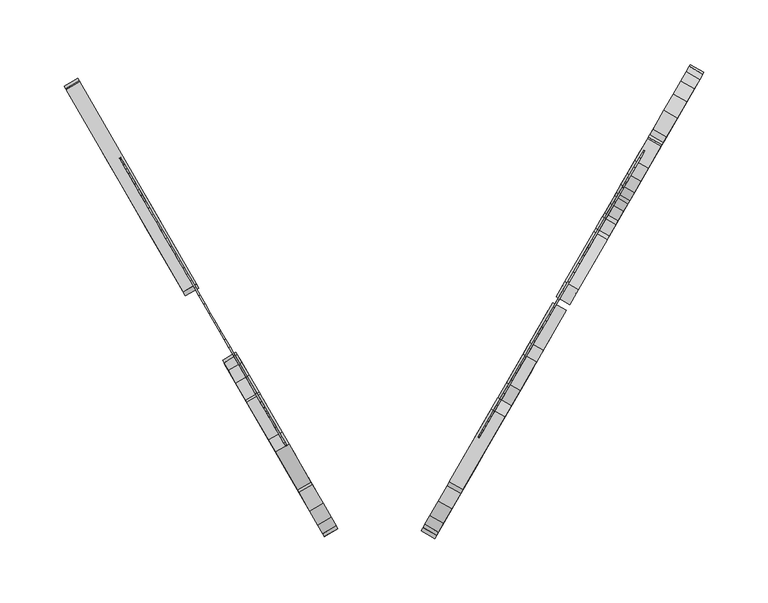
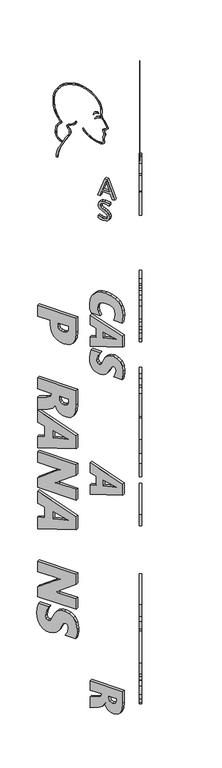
"""IFC4 building model written with IfcOpenShell, lengths in millimetres: proxy geometry, Modelos genéricos - (400)TOTEM - (400)TOTEM."""

from ifc_helpers import new_model, si_unit, point, frame, frame_2d, origin, place, context, project, spatial, polyline, circle_curve, trimmed, segment, composite_curve, outline, extrude, source, transform, mapped, element, save


def generic_models_1c8efe62(model_context):
    return source(origin(), model_context, "Body", "SweptSolid", [
        extrude(outline(polyline([(-80.3774661, -28.5083777), (-100.7879874, 30.7377268), (-51.1912828, 28.6771255), (-24.240557, 23.2900485), (-6.5652179, 8.8162201), (-5.347266, 28.1985705), (0.7980189, 43.925215), (11.6855309, 55.8757368), (27.1301639, 63.9297183), (49.2605002, 66.738668), (68.4571761, 58.9068798), (84.864112, 40.0165924), (98.6252284, 9.6500451), (122.3328338, -59.1665839), (-49.4302314, -118.3396506), (-67.2937987, -66.4866498), (-5.7183602, -45.2736636), (-6.4336007, -43.1975181), (-10.3599736, -36.9594002), (-17.2894131, -32.3223261), (-38.1184081, -28.5083777), (-80.3774661, -28.5083777)]), holes=[polyline([(39.1728398, 6.4459551), (31.6602692, 2.087609), (26.7444757, -4.9166076), (24.9298339, -13.769813), (26.7207182, -23.6751249), (29.9305779, -32.9924611), (68.8203284, -19.5947856), (65.1569015, -8.9608694), (60.551807, 0.3573067), (54.4820544, 5.8286979), (47.25371, 7.7570115), (39.1728398, 6.4459551)])]), frame((-419.5698963, 325.2917013, 2279.6487142), z_axis=(0.8660254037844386, 0.5000000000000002, 0.0), x_axis=(0.4727336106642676, -0.8187986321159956, 0.3257172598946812)), (0.0, 0.0, 1.0), 12.0),
        extrude(outline(polyline([(51.5581652, 55.2175842), (62.329387, 55.2175841), (61.1544311, 31.531573), (56.9792601, 16.0606839), (52.0649763, 5.9553154), (47.5891285, -1.0469498), (42.8315372, -6.1801372), (36.8952275, -10.560278), (29.4359583, -14.7809475), (20.8121161, -18.7715835), (11.4266201, -22.4195913), (1.6257863, -25.669668), (-8.3330692, -28.5565932), (-18.2004353, -31.1230474), (-27.7300259, -33.4131948), (-36.6927136, -35.4790951), (-44.8649169, -37.375793), (-51.9033698, -39.4756851), (-57.1301383, -43.020412), (-60.2491905, -45.9626959), (-61.8683713, -42.4165647), (-62.696972, -35.3212314), (-62.5060865, -26.6188211), (-60.7821867, -16.8979935), (-57.7042164, -7.0358817), (-53.6406035, 2.0343641), (-48.7806385, 9.8595633), (-43.1669027, 16.3796128), (-36.8678539, 21.5529003), (-30.0479601, 25.3598076), (-22.8404071, 27.7837883), (-15.0905931, 28.8009194), (-6.5809258, 28.3928002), (2.4434417, 26.6372716), (11.4390427, 23.6721789), (20.0560556, 19.4958203), (28.2297683, 13.9048631), (35.6972043, 7.3168286), (41.1381098, 3.21759), (44.3662414, 4.3415175), (47.9213022, 9.7933771), (51.6745729, 18.2678375), (54.505076, 29.1226633), (55.5041693, 42.2097192), (51.5581652, 55.2175842)]), holes=[composite_curve([segment(trimmed(circle_curve(frame_2d((-12.5515688, -25.022722)), 43.5117173), [point((-48.4885347, -0.4910276))], [point((-55.2981365, -33.1467906))], True, "CARTESIAN"), True, "CONTINUOUS"), segment(trimmed(circle_curve(frame_2d((-91.5063412, 245.32591)), 280.8168069), [point((-55.2981365, -33.1467906))], [point((36.9439687, -4.3911238))], True, "CARTESIAN"), True, "CONTINUOUS"), segment(trimmed(circle_curve(frame_2d((-13.9898611, -38.3096085)), 61.1941061), [point((36.9439687, -4.3911238))], [point((-12.7293186, 22.8715132))], True, "CARTESIAN"), True, "CONTINUOUS"), segment(trimmed(circle_curve(frame_2d((-13.5092502, -14.9828961)), 37.8624431), [point((-12.7293186, 22.8715132))], [point((-48.4885347, -0.4910276))], True, "CARTESIAN"), True, "CONTINUOUS")], self_intersect=False)]), frame((-44.9569597, 293.556938, 3569.4553785), z_axis=(-0.8660254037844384, 0.5000000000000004, 0.0), x_axis=(-0.42929108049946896, -0.7435539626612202, 0.5126759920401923)), (0.0, 0.0, 1.0), 1.0),
        extrude(outline(polyline([(-60.2017262, 21.1635116), (-73.1143141, 77.7666364), (116.8108071, 62.0389046), (131.5697521, -2.6578404), (-31.9465063, -102.6949867), (-44.8114462, -46.3007295), (-13.2628082, -30.4790073), (-25.0437578, 21.1635116), (-60.2017262, 21.1635116)]), holes=[polyline([(87.6023023, 20.547352), (66.282956, 19.364476), (13.8372759, 20.2549374), (21.460944, -13.1638817), (78.1915106, 15.324193), (87.6023023, 20.547352)])]), frame((-435.2164361, 352.3923032, 2121.3135548), z_axis=(0.8660254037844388, 0.4999999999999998, 0.0), x_axis=(0.4874764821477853, -0.8443340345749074, 0.2224111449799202)), (0.0, 0.0, 1.0), 12.0),
        extrude(outline(polyline([(-60.0947281, 90.3489828), (56.4483146, 90.3489828), (56.4483146, 49.2161442), (-5.2509433, 49.2161442), (-5.2509433, 18.3665153), (49.5928415, 18.3665153), (49.5928415, -22.7663233), (-5.2509433, -22.7663233), (-5.2509433, -50.1882157), (52.2707606, -50.1882157), (52.2707606, -91.3210543), (-60.0947281, -91.3210543), (-60.0947281, 90.3489828)])), frame((-12.677107, 331.4672829, 2192.1601284), z_axis=(-0.8660254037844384, 0.5000000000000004, 0.0), x_axis=(0.0, 0.0, 1.0)), (0.0, 0.0, 1.0), 12.0),
        extrude(outline(polyline([(-18.6471228, -81.8300742), (-39.5655758, -81.8300741), (-50.1016839, -41.1131144), (-31.8190793, -45.3223302), (-15.134686, -43.9850353), (-0.3681791, -37.2828968), (9.5423122, -26.0751451), (13.9458539, -11.3101499), (12.1915116, 6.0637185), (5.2702215, 22.2169714), (-5.7819093, 33.1455562), (-20.0714444, 38.2308868), (-36.7049476, 36.854377), (-53.1327958, 30.251997), (-66.0018342, 20.3332728), (-76.391137, 60.4829009), (-40.7326603, 74.5526105), (-17.6383641, 77.862862), (3.9886617, 75.4619658), (23.3483368, 67.5852388), (39.6405813, 54.4679973), (52.2311722, 36.784262), (60.4858867, 15.2080535), (63.5752198, -5.9528379), (61.5279133, -25.7073303), (54.407926, -43.3578886), (42.2792164, -58.2069781), (25.4456227, -69.809292), (4.2109825, -77.7195239), (-18.6471228, -81.8300742)])), frame((-302.4172833, 122.3774233, 2843.1957147), z_axis=(0.8660254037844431, 0.49999999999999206, 0.0), x_axis=(-0.12525670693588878, 0.2169509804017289, 0.9681131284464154)), (0.0, 0.0, 1.0), 12.0),
        extrude(outline(polyline([(14.1607941, -25.9274697), (-94.0390714, -25.9274697), (-122.069817, 12.6266029), (24.8688506, 119.4583882), (55.5451946, 77.2655043), (-9.4768985, 29.9911795), (-25.0126845, 19.0269724), (-20.4724418, 19.6130274), (-14.9360169, 19.8307632), (-9.3051064, 19.9185416), (-4.5365499, 20.0084143), (97.6857986, 19.3044379), (127.6692478, -21.9354241), (-19.2694198, -128.7672093), (-49.5048307, -87.180794), (12.095047, -42.3945916), (36.5979038, -24.910874), (14.1607941, -25.9274697)])), frame((-416.5560651, 320.0715926, 1915.8486305), z_axis=(0.8660254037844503, 0.4999999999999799, 0.0), x_axis=(0.40441084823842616, -0.7004601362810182, 0.5880539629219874)), (0.0, 0.0, 1.0), 12.0),
        extrude(outline(polyline([(-7.0207868, 7.4311584), (-2.4523088, 7.4311584), (-0.1178888, 3.489727), (1.8008195, 0.1683993), (3.3305661, -2.5706476), (4.4981009, -4.7652374), (5.3301739, -6.4531931), (5.8535348, -7.6723381), (6.0949338, -8.4604956), (6.0811208, -8.8554889), (5.8388455, -8.8951413), (5.394858, -8.617276), (4.7759083, -8.0597164), (4.0087462, -7.2602856), (3.1201218, -6.256807), (2.1367848, -5.0871039), (1.0854852, -3.7889994), (-0.0070269, -2.400317), (-1.1140018, -0.9588797), (-2.2086894, 0.4974889), (-3.2643399, 1.9309658), (-4.2542031, 3.3037275), (-5.1515294, 4.577951), (-5.9295687, 5.7158128), (-6.5615712, 6.6794897), (-7.0207868, 7.4311584)])), frame((-34.8346959, 311.0892133, 3747.7761628), z_axis=(-0.8660254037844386, 0.5000000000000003, 0.0), x_axis=(-0.3528860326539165, -0.6112165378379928, 0.708438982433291)), (0.0, 0.0, 1.0), 1.0),
        extrude(outline(polyline([(-60.2017262, 21.1635115), (-73.1143141, 77.7666363), (116.8108071, 62.0389046), (131.5697521, -2.6578405), (-31.9465063, -102.6949867), (-44.8114462, -46.3007295), (-13.2628082, -30.4790073), (-25.0437578, 21.1635115), (-60.2017262, 21.1635115)]), holes=[polyline([(87.6023023, 20.547352), (66.282956, 19.364476), (13.8372759, 20.2549374), (21.460944, -13.1638817), (78.1915107, 15.3241929), (87.6023023, 20.547352)])]), frame((-435.2164361, 352.3923032, 1720.2683785), z_axis=(0.8660254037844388, 0.4999999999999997, 0.0), x_axis=(0.4874764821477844, -0.844334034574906, 0.22241114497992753)), (0.0, 0.0, 1.0), 12.0),
        extrude(outline(polyline([(-26.053922, -24.3808602), (-38.479467, -24.3808602), (-40.4611272, -19.681112), (-41.9473724, -13.4683395), (-42.8712545, -7.0279439), (-43.1926048, -1.7256639), (-41.893814, 10.5124267), (-37.6627017, 20.7688572), (-30.0574112, 27.8385639), (-18.6360859, 30.4629247), (-9.5981087, 28.494654), (-2.4078957, 23.1789845), (3.4969161, 15.3728501), (8.5983521, 5.9599641), (12.909802, -2.5959877), (16.9802392, -8.8757081), (21.6130394, -12.7720805), (27.6651367, -14.0976505), (33.7440132, -12.3436134), (37.8144504, -7.7777612), (40.0906817, -1.3775344), (40.7869407, 5.7725098), (35.6453359, 27.0351881), (47.5085178, 27.0351881), (51.0701503, 7.3524821), (49.6106844, -4.2696871), (45.1519489, -14.4323904), (37.5466585, -21.635993), (26.7010858, -24.3808602), (17.8237837, -22.6134335), (11.0486482, -17.7396206), (5.5856931, -10.4422908), (0.6984906, -1.4310927), (-3.6665177, 7.1114693), (-7.9913572, 13.9803321), (-12.9856764, 18.5327947), (-19.4126825, 20.179715), (-29.4281002, 15.2657333), (-32.9093951, 0.3631131), (-32.4273697, -5.929997), (-31.0750205, -12.7051326), (-28.9326851, -19.1321385), (-26.053922, -24.3808602)])), frame((-308.53712, 132.9772914, 3306.9970142), z_axis=(0.8660254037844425, 0.4999999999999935, 0.0), x_axis=(0.0, 0.0, 1.0)), (0.0, 0.0, 1.0), 12.0),
        extrude(outline(polyline([(-8.8141895, -9.8029963), (-15.5502766, -9.8029963), (-17.3525215, -9.6855611), (-15.8303386, -8.4663319), (-9.2803753, -5.685902), (-4.6154259, -3.2275173), (-1.4981131, -1.0333324), (0.4089405, 0.9544981), (1.4431124, 2.7938191), (1.9326647, 4.5230778), (2.1509938, 6.063962), (2.3510665, 7.2946832), (2.785815, 8.0933795), (3.6401104, 8.3676936), (4.7718464, 8.1670123), (5.9408453, 7.5832365), (6.9071674, 6.7081748), (7.5001197, 5.6066368), (7.7115236, 4.2800681), (7.5564889, 2.7208341), (7.0501251, 0.9213002), (6.2051569, -1.1240662), (4.9358907, -3.3340695), (3.0253855, -5.5118562), (0.2475789, -7.4525343), (-3.6235919, -8.9512116), (-8.8141895, -9.8029963)])), frame((-319.4277008, 169.8403307, 3776.6638821), z_axis=(0.8660254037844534, 0.49999999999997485, 0.0), x_axis=(0.16053919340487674, -0.27806203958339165, 0.9470526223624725)), (0.0, 0.0, 1.0), 1.0),
        extrude(outline(polyline([(-34.8450844, 33.7096466), (-24.5618747, 33.7096466), (-24.5618747, -2.2815872), (55.9899342, -2.2815872), (55.9899342, -12.5647969), (-34.8450844, -12.5647969), (-34.8450844, 33.7096466)])), frame((-89.7860753, 197.9106321, 3414.5361845), z_axis=(-0.8660254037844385, 0.5000000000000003, 0.0), x_axis=(0.0, 0.0, 1.0)), (0.0, 0.0, 1.0), 12.0),
        extrude(outline(polyline([(42.1894471, -67.4490848), (25.0505081, -67.4490848), (8.2250587, -62.2884927), (-5.3246751, -51.9030551), (-16.157512, -35.0532275), (-24.8322713, -10.4994661), (-31.9640284, 8.7320994), (-40.7654011, 14.2991173), (-50.7676982, 10.3810872), (-56.0597312, -2.8916533), (-55.5510075, -24.2774054), (-48.2987773, -46.9452757), (-95.5181548, -40.4284057), (-97.501731, -22.2858164), (-97.5198067, -8.1180156), (-95.9789174, 8.7271621), (-88.0598482, 37.2151203), (-73.2212335, 58.0574197), (-52.9583549, 69.9195456), (-28.7664942, 71.4669831), (-11.7500839, 66.3678934), (1.948089, 56.2255412), (12.3280245, 41.0399267), (19.3897226, 20.8110499), (24.7422591, 1.4195438), (29.9584747, -6.8155412), (37.3677479, -10.3251529), (47.3947106, -6.8160225), (52.4754214, 6.296652), (51.2626769, 31.9832035), (42.33672, 58.193615), (90.723318, 51.5156539), (94.4334254, 26.6874046), (93.1561294, 0.1956066), (88.5133669, -21.3982982), (81.0726601, -39.172857), (70.7933177, -52.9332225), (57.6346484, -62.484548), (42.1894471, -67.4490848)])), frame((-417.7963956, 322.2199081, 1197.9849921), z_axis=(0.8660254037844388, 0.49999999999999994, 0.0), x_axis=(-0.49530509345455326, 0.8578935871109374, 0.13671670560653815)), (0.0, 0.0, 1.0), 12.0),
        extrude(outline(polyline([(14.160794, -25.9274696), (-94.0390715, -25.9274696), (-122.069817, 12.626603), (24.8688506, 119.4583882), (55.5451946, 77.2655043), (-9.4768986, 29.9911796), (-25.0126845, 19.0269725), (-20.4724418, 19.6130274), (-14.936017, 19.8307633), (-9.3051065, 19.9185417), (-4.5365499, 20.0084144), (97.6857986, 19.3044379), (127.6692477, -21.935424), (-19.2694199, -128.7672092), (-49.5048308, -87.1807939), (12.0950469, -42.3945915), (36.5979037, -24.9108739), (14.160794, -25.9274696)])), frame((-416.5560651, 320.0715926, 1374.2662558), z_axis=(0.866025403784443, 0.49999999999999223, 0.0), x_axis=(0.40441084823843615, -0.7004601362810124, 0.5880539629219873)), (0.0, 0.0, 1.0), 12.0),
        extrude(outline(composite_curve([segment(polyline([(117.6741667, -66.3453681), (138.7352211, -67.796295), (143.0624268, -67.796295), (145.0705339, -54.5408245), (145.2900501, -42.6388145), (143.9862875, -31.9215245), (141.4027786, -22.2180106), (137.752236, -13.3811242), (133.2411854, -5.2687154), (130.4443404, 10.9475575), (133.1035647, 24.1211221), (136.1625235, 35.9161995), (138.1786122, 46.0488012), (138.6867286, 53.8835489), (136.3662847, 59.9940626), (130.5191224, 63.9452562), (122.6840373, 64.0111593), (115.5063981, 65.1521007), (111.9314611, 72.904258), (112.0027888, 82.9198371), (110.8035145, 90.0015287), (106.6583166, 93.6149168), (101.6838688, 101.3720403), (97.933689, 111.1947326), (95.0760383, 119.7187399), (91.6573641, 125.1258058), (85.8643104, 126.2730018), (78.7295581, 124.7127116), (71.7101561, 121.7506913), (64.1631184, 117.0194305), (56.0830114, 110.6308374), (48.1477637, 103.2136689), (40.9577016, 95.3281571), (34.5492768, 87.0552328), (28.7705927, 78.3143589), (23.5855367, 68.3710838), (19.2658205, 54.7547602), (17.1102318, 68.4846985), (25.6837844, 84.0209439), (36.8379633, 98.4661691), (48.793848, 110.8589468), (59.8024475, 120.2579481), (69.1198887, 126.3968235), (77.2231006, 129.8290448), (84.6625904, 131.1574938), (91.6954084, 130.781397), (97.3416206, 128.2415233), (100.7348014, 122.9550865), (102.6914119, 114.7939026), (105.5499715, 106.0749177), (110.4467686, 99.6498325), (113.1541006, 93.8595607), (117.4459714, 93.2598507), (119.191807, 87.9912882), (119.3596649, 78.2449504), (121.3090339, 70.3309142), (127.3404146, 68.8956177), (135.2647192, 68.1640595), (141.7942094, 64.4239077), (144.3180183, 60.9804508), (144.5857486, 55.2026227), (143.3302556, 45.2362082), (139.6096672, 31.4512479), (135.8561647, 14.9801127), (137.8985521, -2.3584697), (142.8775103, -11.3476165), (146.9110178, -21.2346405), (149.728574, -32.1395771), (151.0596781, -44.1824614), (150.6338295, -57.4833291), (148.1805274, -72.1622155), (139.7820183, -90.4585204), (132.959704, -102.634912), (127.1377985, -110.9059382), (121.7625153, -117.2460684), (116.3818606, -122.5188859), (110.5732625, -127.2668884), (103.9570817, -131.9937194), (96.7050228, -136.7044292), (89.3710105, -141.0584164), (82.4994421, -144.718237), (76.248663, -147.5730628), (70.396228, -149.7355921), (64.703679, -151.3281636), (58.9382497, -152.4797642), (52.8747879, -153.3282725), (46.2886724, -154.0121877), (39.038602, -154.6164785), (31.3066618, -155.0183482), (23.3533825, -155.0446009), (15.4392946, -154.5220409), (7.7875627, -153.3048051), (0.4033937, -151.406463), (-6.7868134, -148.89823), (-13.8567667, -145.8514006), (-20.8801748, -142.337269), (-27.9234688, -138.4258172), (-34.924362, -134.163813), (-41.7102473, -129.5781274), (-48.1049465, -124.6949879), (-53.9322817, -119.5406217), (-59.0170958, -114.1411694), (-63.2970869, -108.5131669), (-66.9236325, -102.6549655), (-70.0719098, -96.5628905), (-72.9170958, -90.2332679), (-75.6343678, -83.6624234), (-78.3794789, -76.8434103), (-81.1093703, -69.7357893), (-83.6644687, -62.2794923), (-85.8837248, -54.4142025), (-87.6060889, -46.0796035), (-88.670668, -37.2156478), (-88.9830909, -27.8769476), (-88.6186709, -18.4105893), (-87.6793849, -9.2096175), (-86.2672097, -0.667077), (-84.4862856, 6.8253841), (-82.5483521, 12.9455717), (-80.8202745, 17.4714246), (-79.6942871, 20.2030599), (-80.1510365, 21.5771814), (-83.8848207, 22.8858821), (-90.6413571, 25.0769379), (-98.2590129, 28.7052313), (-105.2330584, 33.9729073), (-111.3666045, 40.4807284), (-116.5979601, 47.7672891), (-120.879845, 55.3958548), (-124.2281682, 63.0378633), (-126.6761529, 70.3943926), (-128.2081907, 77.2791836), (-128.5179259, 84.1767676), (-127.1834394, 91.8231488), (-122.7088078, 101.4946033), (-111.4805645, 115.5320271), (-107.4640677, 111.7865833), (-116.0896516, 101.4801336), (-120.4181495, 94.2618859), (-122.2506933, 88.9091575), (-122.9850899, 84.2112169), (-122.9575033, 79.9567171), (-122.2903626, 75.6492833), (-121.0643422, 70.9245636), (-119.3607834, 65.8430178), (-117.2029535, 60.598445), (-114.5788889, 55.3080869), (-111.4864081, 50.0996476), (-107.9392914, 45.1178382), (-103.9845709, 40.5472155), (-99.6831968, 36.5707907), (-95.1100868, 33.3557996), (-90.2241101, 30.9508941), (-85.2495935, 29.1815533), (-80.9980693, 27.9004019), (-77.3640701, 26.4385514), (-74.1872074, 20.3083404), (-75.1170305, 17.2065794), (-76.1029759, 14.8228979), (-77.3277153, 11.5900254), (-78.6688359, 7.5415403), (-79.9833907, 2.7562032), (-81.1643922, -2.7168161), (-82.1551956, -8.7624813), (-82.9093087, -15.1958962), (-83.3834181, -21.8451609), (-83.5381365, -28.5393005), (-83.3364387, -35.0980095), (-82.7502056, -41.3758193), (-81.7909968, -47.3755369), (-80.5145039, -53.1383229), (-78.9771106, -58.6957837), (-77.234055, -64.0760489), (-75.3424839, -69.3047454), (-73.3601784, -74.4093447), (-71.3473174, -79.4231115), (-69.3662643, -84.2898974), (-67.3956301, -88.9640775), (-65.3681432, -93.4422861), (-63.2207856, -97.7314334), (-60.8895487, -101.841529), (-58.3078547, -105.7888783), (-55.4072636, -109.5910171), (-52.1027055, -113.2848313), (-48.3421976, -116.9124036), (-44.1834141, -120.4577181), (-39.6993252, -123.8969646), (-34.9631276, -127.2079905), (-30.0487039, -130.37334), (-25.0292378, -133.3768702), (-19.9815703, -136.2028217), (-14.9765772, -138.812805), (-10.0090384, -141.1758334), (-5.0498476, -143.2683221), (-0.0693182, -145.0687076), (4.9653023, -146.5562187), (10.0862952, -147.7111328), (15.3419598, -148.5109932), (20.7834062, -148.9581531), (26.3715015, -149.0978534), (31.9829646, -148.9891474), (37.5105949, -148.6988825), (42.8455291, -148.2904049), (47.8646921, -147.816076), (52.4867029, -147.3064499), (56.7679074, -146.7201704), (60.8022914, -146.000022), (64.6997949, -145.0944234), (68.5762437, -143.9527593), (72.5529556, -142.5165924), (76.7518792, -140.724288), (81.2752005, -138.5197674), (86.204242, -135.8551002), (91.4303756, -132.7951487), (96.7081347, -129.4886139), (101.7961728, -126.0852172), (106.4470378, -122.7408416), (110.5776092, -119.4729267), (114.3609135, -116.0778635), (118.0135692, -112.3067469), (121.7376337, -107.9060882), (125.6662453, -102.6272256), (130.0166827, -95.7458658), (135.073228, -86.2884923), (141.0893223, -73.2881613), (138.7352211, -73.2881614), (116.9027686, -71.7828697), (102.6234807, -68.4350182), (93.767022, -64.9978737), (88.3292251, -62.5635254), (84.6976978, -60.2649501), (81.6900216, -57.0772711), (78.9957069, -52.5097948), (76.3122538, -46.6610474), (73.2080144, -39.9984707), (69.4903666, -33.1660785), (65.1435766, -26.9102173), (60.2541163, -21.7718466), (55.1069855, -17.9265032), (49.9121632, -15.5573808), (44.7975407, -15.04571), (40.8928801, -16.7036834), (38.0338932, -20.6440801), (33.5195897, -25.9149368), (27.8106792, -30.4261676), (22.1084889, -32.4601037), (16.5396393, -32.333181), (11.156628, -30.4591767), (6.3053426, -26.9358167), (2.2691393, -21.9814211), (-0.8870034, -16.1222247), (-3.1591986, -9.8603345), (-4.7442831, -3.3604383), (-5.9205482, 3.3624146), (-6.5945953, 10.1852933), (-6.0150487, 16.7767579), (-3.4992025, 22.7686129), (-16.1076237, 30.3123973), (-25.2253059, 33.2339868), (-31.6365563, 33.9083817), (-37.3596751, 33.5224602), (-46.6647294, 34.565163), (-54.7827615, 37.6127574), (-58.2962589, 41.6486431), (-57.5387701, 47.0660009), (-54.0250332, 54.6215878), (-52.9615792, 59.9523849), (-53.768666, 66.1428632), (-55.9624084, 72.0488841), (-59.1669743, 76.839213), (-63.1090245, 80.4074033), (-67.7662934, 83.4363499), (-73.1514491, 86.7179015), (-79.2540581, 90.9052711), (-85.9494121, 95.9629188), (-93.075824, 101.6401523), (-100.4721409, 107.6865616), (-107.977564, 113.8525383), (-115.4579916, 119.974557), (-122.8328351, 126.0590292), (-130.0276629, 132.132091), (-136.9680023, 138.2198455), (-143.5795681, 144.3487557), (-149.8253329, 150.7413988), (-155.7753852, 158.1777479), (-161.5186592, 167.5359035), (-167.1440118, 179.6939059), (-159.2403467, 182.8871939), (-155.1004007, 173.7150352), (-150.8754203, 166.1836247), (-146.611407, 159.959944), (-142.3543624, 154.7109766), (-138.1502783, 150.1036957), (-134.0412793, 145.8268911), (-130.0353579, 141.763585), (-126.1224499, 137.8983967), (-122.2923718, 134.216882), (-118.5349406, 130.7045964), (-114.8399867, 127.3471077), (-111.1917722, 124.125748), (-107.5503835, 121.003476), (-103.8693598, 117.9382788), (-100.1022251, 114.8881302), (-96.2025035, 111.8110035), (-92.1236989, 108.6648568), (-87.8244052, 105.4111022), (-83.3475095, 102.0685015), (-78.8031266, 98.701492), (-74.3034644, 95.3759476), (-69.9607347, 92.1577451), (-65.8872364, 89.1127669), (-62.1631013, 86.2641674), (-58.7924476, 83.5332043), (-55.7681159, 80.8260481), (-53.0828619, 78.0487984), (-50.7317116, 75.1109087), (-48.7291662, 71.9507697), (-47.0993554, 68.5210685), (-45.9245101, 64.7724006), (-45.5804091, 60.6419347), (-46.5344466, 56.060677), (-48.7053687, 51.2222353), (-50.7617157, 46.9012809), (-51.4004303, 43.7554262), (-50.14241, 41.6304949), (-46.7409333, 40.1690788), (-41.5276355, 39.1369493), (-35.4442894, 38.4302515), (-29.4528612, 37.9740558), (-24.4762674, 37.7595323), (-21.1277295, 37.7031044), (-17.7394342, 37.0564265), (-11.7077347, 34.4484229), (-0.9131783, 26.1700258), (3.0765654, 29.6109002), (7.7396402, 31.8772177), (13.6669635, 33.2430713), (21.9654425, 31.9681684)]), True, "CONTINUOUS"), segment(trimmed(circle_curve(frame_2d((19.7640024, 29.9195513)), 3.0071864), [point((21.9654425, 31.9681684))], [point((19.8195993, 26.9128788))], False, "CARTESIAN"), True, "CONTINUOUS"), segment(polyline([(19.8195993, 26.9128788), (13.4927868, 27.6693771), (8.3004911, 26.2159256), (4.6674537, 23.9391828), (1.4477454, 20.3085416), (-0.5500986, 15.9954761), (-1.1144909, 10.9013785), (-0.5811368, 4.8037444), (0.5232404, -1.691945), (1.9579032, -7.7876173), (3.9358068, -13.4398576), (6.6124757, -18.5827855), (9.8503839, -22.7188153), (13.4175545, -25.4398717), (17.2681886, -26.879009), (21.0392195, -27.0646111), (24.7959721, -25.8197614), (29.352158, -22.3088898), (33.413971, -17.6640888), (36.7218536, -13.1149873), (43.8094712, -9.6331917), (51.1216239, -10.1931029), (57.6859273, -13.0660314), (63.670527, -17.4620017), (69.2112372, -23.2086442), (74.0444691, -30.0841704), (78.0219208, -37.3436292), (81.2508979, -44.252072), (83.8620184, -49.9609656), (86.065992, -53.7594715), (88.1336957, -55.9808035), (90.745151, -57.6310474), (95.8403514, -59.9131672), (104.2600705, -63.1919988), (117.6741667, -66.3453681)]), True, "CONTINUOUS")], self_intersect=False)), frame((-89.9439603, 215.6371673, 3722.2166887), z_axis=(-0.8660254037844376, 0.500000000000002, 0.0), x_axis=(0.46359192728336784, 0.8029647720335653, 0.37460659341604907)), (0.0, 0.0, 1.0), 1.0),
        extrude(outline(polyline([(-16.4278046, 3.4490094), (-13.5813785, 9.5474052), (-8.1090277, 9.2513531), (-3.4764574, 7.8366546), (0.3896282, 5.6319631), (3.5625245, 2.9659318), (6.1155276, 0.1672141), (8.121933, -2.4355371), (9.6474741, -4.5545534), (10.7145864, -6.13615), (11.3303227, -7.2098066), (10.5396203, -7.6789269), (9.420197, -7.0166142), (7.8872165, -5.9978875), (5.9851679, -4.7037075), (3.7830788, -3.2486972), (1.3504903, -1.7481846), (-1.2430562, -0.3174972), (-3.9281105, 0.9300848), (-6.637557, 1.9339874), (-9.3067626, 2.6896649), (-11.8712144, 3.1952834), (-14.2663995, 3.4490094), (-16.4278046, 3.4490094)])), frame((-318.0102439, 167.3852234, 3753.6849231), z_axis=(0.86602540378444, 0.4999999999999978, 0.0), x_axis=(-0.4990103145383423, 0.8643112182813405, -0.06288739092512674)), (0.0, 0.0, 1.0), 1.0),
        extrude(outline(polyline([(46.9942844, 74.3329074), (93.1544699, 74.3329074), (93.1544699, -78.5727072), (25.5370106, -78.5727072), (5.9730257, 5.0024724), (1.6455084, 28.1727218), (0.0903068, 15.9339617), (-1.8705995, 5.4081772), (-22.7869336, -78.5727072), (-91.4862722, -78.5727072), (-91.4862722, 74.3329074), (-51.0961099, 74.3329074), (-51.0961099, 1.396208), (-51.3215014, -43.952568), (-46.407966, -17.6268372), (-23.1926384, 74.3329074), (19.4514393, 74.3329074), (41.6299659, -18.7087166), (48.0310854, -43.952568), (47.7155373, -36.8301957), (46.9942844, -10.5044648), (46.9942844, 74.3329074)])), frame((-134.6560537, 120.1935498, 2085.3853251), z_axis=(-0.8660254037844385, 0.5000000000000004, 0.0), x_axis=(0.0, 0.0, 1.0)), (0.0, 0.0, 1.0), 12.0),
        extrude(outline(polyline([(-50.6697863, 17.8126222), (-61.5378811, 65.4535856), (98.3157626, 52.2160781), (110.7378747, -2.2370157), (-26.8883095, -86.4349471), (-37.7163006, -38.9697806), (-11.1628636, -25.6531645), (-21.0784962, 17.8126222), (-50.6697863, 17.8126222)]), holes=[polyline([(73.7319378, 17.2940214), (55.7881547, 16.298434), (11.6463738, 17.0479056), (18.0629612, -11.0796004), (65.8111881, 12.8978624), (73.7319378, 17.2940214)])]), frame((-316.4034107, 146.6021066, 1961.7694902), z_axis=(0.8660254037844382, 0.5000000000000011, 0.0), x_axis=(0.4874764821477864, -0.8443340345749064, 0.22241114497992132)), (0.0, 0.0, 1.0), 12.0),
        extrude(outline(polyline([(-8.5175914, 48.7575175), (-3.4171395, 48.7575175), (2.8849881, 47.7131735), (9.1783634, 46.0622097), (14.1889366, 44.2982382), (24.9609589, 38.3466623), (32.7677207, 30.4630624), (36.3271581, 20.7084942), (34.3078565, 9.1648222), (28.9827252, 1.6016153), (21.2910799, -2.9584393), (11.804039, -5.3664656), (1.1486094, -6.409966), (-8.4102782, -7.0584849), (-15.778121, -8.3693016), (-21.1683502, -11.1242944), (-24.7411797, -16.1859054), (-25.4867481, -22.4687005), (-22.8610725, -27.9933084), (-17.8480388, -32.5773706), (-11.5302342, -35.9969106), (10.0596461, -39.5203544), (5.4504868, -50.4515362), (-14.0696866, -46.0861075), (-24.2117493, -40.2257813), (-31.8437098, -32.1688564), (-35.526524, -22.3622661), (-33.8419565, -11.3022943), (-28.764317, -3.8091063), (-21.6410836, 0.5401533), (-12.7945474, 2.7387203), (-2.5924835, 3.7408841), (6.9748753, 4.443956), (14.984418, 5.7602913), (21.119653, 8.5934928), (25.1342487, 13.8757058), (24.4975754, 25.0134999), (12.1183158, 34.0113572), (6.132328, 36.0122402), (-0.6359599, 37.3984538), (-7.3903988, 37.9214869), (-13.3452436, 37.3081532), (-8.5175914, 48.7575175)])), frame((-11.5469347, 333.4247989, 3309.3080702), z_axis=(-0.8660254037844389, 0.4999999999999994, 0.0), x_axis=(0.4607187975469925, 0.7979883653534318, -0.3885263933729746)), (0.0, 0.0, 1.0), 12.0),
        extrude(outline(polyline([(5.1769619, 89.7221858), (32.2852107, 89.7221859), (52.8415157, 79.6828438), (67.3534986, 58.9958968), (76.3287812, 27.0530815), (88.3847214, -45.9218902), (-90.8557594, -75.5335842), (-99.7951387, -21.4232503), (-42.3029091, -11.9251598), (-44.9917067, 4.350214), (-46.541588, 25.8893313), (-43.7184695, 45.2738258), (-36.7741613, 61.8921113), (-25.960474, 75.1326014), (-11.8019264, 84.5557936), (5.1769619, 89.7221858)]), holes=[polyline([(12.8255781, 31.924411), (2.7675818, 28.8344075), (-3.8916624, 23.4491859), (-7.1521544, 15.7687462), (-7.0138944, 5.7930884), (-5.1020545, -5.7793365), (42.2444876, 2.0426204), (40.629463, 11.8184131), (37.4047708, 21.9729049), (31.6416726, 28.7631095), (23.4214985, 32.1074653), (12.8255781, 31.924411)])]), frame((-18.4788461, 321.418376, 1064.054287), z_axis=(-0.8660254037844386, 0.5000000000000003, 0.0), x_axis=(-0.4933132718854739, -0.8544436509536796, -0.16299712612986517)), (0.0, 0.0, 1.0), 12.0),
        extrude(outline(polyline([(-28.0009924, -28.7072936), (-39.4892656, -28.7072936), (-5.3725753, 62.127725), (5.3658806, 62.127725), (39.348675, -28.7072936), (27.8068433, -28.7072936), (19.5052939, -4.7131378), (-19.1638591, -4.7131378), (-28.0009924, -28.7072936)]), holes=[polyline([(-1.3021381, 45.6853012), (-15.4951098, 5.5700719), (15.8633238, 5.5700719), (1.7239105, 45.6853012), (0.0636007, 51.8445153), (-1.3021381, 45.6853012)])]), frame((-301.9101467, 121.499037, 3409.2255713), z_axis=(0.8660254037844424, 0.4999999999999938, 0.0), x_axis=(-0.4999999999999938, 0.8660254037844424, 0.0)), (0.0, 0.0, 1.0), 12.0),
        extrude(outline(polyline([(28.618245, 66.0064697), (77.4831289, 66.0064697), (29.0239497, -86.8991448), (-26.8280716, -86.8991448), (-78.3074973, 66.0064697), (-29.6229266, 66.0064697), (-22.5456325, 37.1563538), (22.0368123, 37.1563538), (28.618245, 66.0064697)]), holes=[polyline([(0.4443036, -55.1640172), (3.4645501, -37.4482429), (14.0128738, 5.4212263), (-14.8372422, 5.4212263), (-2.0800815, -46.4639042), (0.4443036, -55.1640172)])]), frame((-130.4928349, 127.4044563, 1330.7585701), z_axis=(-0.8660254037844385, 0.5000000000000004, 0.0), x_axis=(0.0, 0.0, 1.0)), (0.0, 0.0, 1.0), 12.0),
        extrude(outline(polyline([(28.618245, 66.0064697), (77.4831289, 66.0064697), (29.0239498, -86.8991448), (-26.8280716, -86.8991448), (-78.3074973, 66.0064697), (-29.6229266, 66.0064697), (-22.5456325, 37.1563538), (22.0368123, 37.1563538), (28.618245, 66.0064697)]), holes=[polyline([(0.4443036, -55.1640172), (3.4645501, -37.4482429), (14.0128738, 5.4212263), (-14.8372422, 5.4212263), (-2.0800815, -46.4639042), (0.4443036, -55.1640172)])]), frame((-130.4928349, 127.4044563, 1777.9353674), z_axis=(-0.8660254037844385, 0.5000000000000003, 0.0), x_axis=(0.0, 0.0, 1.0)), (0.0, 0.0, 1.0), 12.0),
        extrude(outline(polyline([(-51.6514887, 22.8310198), (45.3791723, 22.8310198), (49.1548919, 12.7782403), (-23.9314919, -50.9729276), (-27.9896844, -40.1680699), (-8.4464989, -23.9600736), (-22.042856, 12.2399604), (-47.6121278, 12.0763006), (-51.6514887, 22.8310198)]), holes=[polyline([(-11.1262951, 12.4211214), (-0.1004404, -16.9350004), (32.4818133, 10.4063852), (37.6639696, 14.1263051), (31.4178325, 13.2392135), (-11.1262951, 12.4211214)])]), frame((-135.5450816, 118.6537084, 3305.0169627), z_axis=(-0.8660254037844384, 0.5000000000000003, 0.0), x_axis=(-0.17580365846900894, -0.30450086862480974, 0.9361475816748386)), (0.0, 0.0, 1.0), 12.0),
        extrude(outline(polyline([(-13.1004726, -185.1836419), (-31.076087, -185.1836419), (-30.660069, -179.7075553), (-17.1949464, -180.0041317), (-8.8477396, -178.868191), (-3.5208963, -176.9466197), (0.6082643, -174.5765122), (3.9154443, -171.885105), (6.8679159, -168.6555455), (9.7999557, -164.7247808), (12.7099625, -160.1980648), (15.4602882, -155.2139841), (17.95131, -149.8369453), (20.0811492, -144.1458402), (21.7442322, -138.2440448), (22.8249336, -132.2856203), (23.2180566, -126.433719), (22.8399305, -120.8515746), (21.6307259, -115.5290703), (19.8903749, -110.553328), (18.2446162, -106.4603801), (17.1587256, -102.6329299), (20.2483972, -96.4196108), (23.1273927, -95.3315541), (25.6416297, -94.5981859), (28.9878876, -93.508599), (33.0376816, -91.9946089), (37.6404081, -89.992706), (42.6926105, -87.4531201), (48.0636978, -84.4094749), (53.5784362, -80.9419667), (59.074695, -77.12477), (64.3933202, -73.0347457), (69.3686397, -68.7565554), (73.877331, -64.3553853), (77.9380518, -59.8370731), (81.6194086, -55.2204652), (84.9809251, -50.5302438), (88.0794665, -45.792394), (90.9711742, -41.0359281), (93.7146768, -36.2888011), (96.3716276, -31.5801496), (98.9292472, -26.9957043), (101.3361924, -22.5361856), (103.5496206, -18.1492988), (105.5356409, -13.7807375), (107.2620105, -9.3734547), (108.7000985, -4.8639928), (109.8202303, -0.1867033), (110.5998402, 4.7516689), (111.0435938, 10.0054357), (111.1760814, 15.5108478), (111.0245976, 21.1955749), (110.6183269, 26.9883209), (109.9902476, 32.8201856), (109.174203, 38.6234377), (108.2049703, 44.3264839), (107.0915752, 49.8527906), (105.8020063, 55.1957381), (104.3000592, 60.3634837), (102.5497622, 65.3663647), (100.5141709, 70.2172633), (98.1569698, 74.9298354), (95.4283762, 79.5301156), (92.3092906, 84.0600884), (88.8747096, 88.5043759), (85.2515728, 92.8022309), (81.5588892, 96.9133786), (77.9147413, 100.7891096), (74.4363469, 104.3654458), (71.1777943, 107.6057761), (68.0543171, 110.5367349), (64.9608727, 113.1985529), (61.7868881, 115.6475453), (58.4184604, 117.9429673), (54.7316251, 120.1432777), (50.6026787, 122.3045366), (45.9276589, 124.4687814), (40.6359334, 126.6629076), (34.8977088, 128.8235014), (28.9900108, 130.8493947), (23.1818618, 132.6458064), (17.7379759, 134.1190251), (12.6455103, 135.2286381), (7.6001273, 135.9899789), (2.2669785, 136.4132541), (-3.6714224, 136.4960397), (-10.5290138, 136.1447164), (-19.1236664, 135.0323463), (-30.3925943, 132.7653801), (-45.1870753, 128.9504444), (-57.3352802, 122.1720094), (-67.1863858, 114.7988634), (-75.0490781, 106.9471553), (-81.2300936, 98.7072856), (-85.9960356, 90.159057), (-89.6033858, 81.3798768), (-100.5198994, 69.0664864), (-112.4683824, 62.9144113), (-123.5900737, 57.9355495), (-132.7620972, 53.1807399), (-139.1977565, 48.683658), (-142.5201108, 43.0547328), (-141.9532993, 36.0205333), (-137.1106758, 29.8608337), (-133.5182311, 23.543034), (-137.3389658, 15.9090244), (-145.204834, 9.7086187), (-149.9859202, 4.3485973), (-150.2184224, -1.1455072), (-153.1688483, -9.8755175), (-158.4970312, -18.9397108), (-163.3685589, -26.4957074), (-165.4555846, -32.5428571), (-162.7328882, -37.7833202), (-157.0578005, -42.3803382), (-150.360133, -46.0117042), (-141.9512583, -48.9499747), (-131.9151732, -51.269295), (-121.1663429, -52.8330058), (-110.5172473, -53.5222452), (-100.0538554, -53.3591001), (-89.6183944, -52.4118823), (-78.6147631, -50.2500266), (-65.2833172, -45.1180903), (-74.658768, -55.3776562), (-92.146615, -58.3869637), (-110.3944242, -58.69953), (-127.5402222, -57.1039965), (-141.7564261, -54.3781868), (-152.3703883, -50.9366309), (-160.112231, -46.7526069), (-165.7966211, -41.7727983), (-169.8958835, -36.0458422), (-171.4392946, -30.0501309), (-169.4305458, -24.0982389), (-164.2795286, -17.4725111), (-159.2563077, -9.7940143), (-157.2975867, -1.9566836), (-154.4669788, 3.7743332), (-156.67952, 7.5005201), (-153.6557359, 12.1548108), (-146.1495265, 18.373822), (-141.1869875, 24.8395171), (-143.8335698, 30.4460517), (-148.2121033, 37.0912173), (-149.3699278, 44.5264322), (-148.2573471, 48.6482244), (-143.9125899, 52.466347), (-135.3454411, 57.7113106), (-122.2565422, 63.4164516), (-107.04941, 70.773775), (-94.7852059, 83.1990348), (-90.8754921, 92.7021355), (-85.6740486, 102.0277676), (-78.9181734, 111.0396715), (-70.3451641, 119.601588), (-59.6923183, 127.5772577), (-46.6969338, 134.830421), (-27.1630542, 139.7004594), (-13.392856, 141.9786443), (-3.2973084, 142.5986254), (5.0113968, 142.3612703), (12.4899771, 141.453037), (19.8260309, 139.8827972), (27.6499981, 137.6686796), (35.8585694, 134.9479254), (43.8397619, 131.9403503), (50.9900096, 128.860302), (57.1238565, 125.7622072), (62.4682581, 122.5427511), (67.2677007, 119.0921351), (71.768306, 115.3091589), (76.2183846, 111.1041218), (80.8663991, 106.3881256), (85.8669647, 101.103901), (91.0104507, 95.3169371), (95.9988686, 89.1225019), (100.5342301, 82.6158627), (104.3632315, 75.8801807), (107.4932171, 68.927998), (110.025774, 61.7463223), (112.0626179, 54.322127), (113.7054647, 46.6423851), (115.0504597, 38.6989329), (116.0952182, 30.5696237), (116.752907, 22.406034), (116.9339601, 14.3621265), (116.5488114, 6.5918634), (115.5084648, -0.7516438), (113.7869172, -7.6094138), (111.4774373, -14.1006896), (108.6865779, -20.3645645), (105.5208918, -26.5401323), (102.086932, -32.7664864), (98.476563, -39.1695957), (94.631309, -45.7410952), (90.4045865, -52.3938925), (85.6486958, -59.0398975), (80.2159373, -65.5910205), (73.9589188, -71.9591256), (66.8613405, -78.0364039), (59.2412906, -83.6648655), (51.469402, -88.6786353), (43.9163079, -92.9118382), (36.9529021, -96.2011607), (30.9630508, -98.5106985), (26.3493231, -99.9882346), (23.5128146, -100.8152164), (22.7250455, -102.0302266), (24.0353235, -105.7634575), (26.5446818, -112.4083528), (28.4695673, -120.6234611), (28.7122116, -129.3599848), (27.4614009, -138.2147911), (25.0389186, -146.8514936), (21.7562846, -154.9603693), (17.8800152, -162.3486099), (13.6642956, -168.8554417), (9.2448285, -174.3523315), (4.0518752, -178.9026982), (-2.7528675, -182.6367945), (-13.1004726, -185.1836419)])), frame((-368.3510367, 254.5780342, 3750.8148434), z_axis=(0.8660254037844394, 0.499999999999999, 0.0), x_axis=(-0.4358448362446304, 0.7549054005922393, 0.490058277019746)), (0.0, 0.0, 1.0), 1.0),
        extrude(outline(polyline([(-45.5581275, 36.0035539), (45.2768911, 36.0035539), (45.2768911, 25.7203442), (-18.6985981, 25.7203442), (-32.0614148, 26.095253), (-25.9825383, 22.4532828), (45.2768911, -22.5357594), (45.2768911, -35.9789136), (-45.5581275, -35.9789136), (-45.5581275, -25.695704), (20.0776716, -25.695704), (32.556775, -25.8028208), (26.8528071, -22.9106681), (-45.5581275, 23.3369962), (-45.5581275, 36.0035539)])), frame((-52.3709928, 262.715456, 3310.2492276), z_axis=(-0.8660254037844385, 0.5000000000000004, 0.0), x_axis=(0.0, 0.0, 1.0)), (0.0, 0.0, 1.0), 12.0),
        extrude(outline(polyline([(19.6032217, 72.7518474), (72.34484, 72.7518474), (57.1083725, 33.8492692), (45.4330912, 13.8795795), (29.069666, 3.782039), (44.159629, -2.50075), (54.9896921, -11.7023592), (61.5147769, -23.6424756), (63.6898052, -38.1407858), (59.8581492, -56.5214652), (48.3631811, -69.6505218), (28.8330049, -77.5279558), (0.8957247, -80.1537672), (-60.3656934, -80.1537672), (-60.3656934, 72.7518474), (-14.2055079, 72.7518474), (-14.2055079, 17.9366271), (-12.3572973, 17.9366271), (-0.7270944, 23.5939545), (8.018097, 39.123431), (19.6032217, 72.7518474)]), holes=[polyline([(14.6446081, -31.9650578), (9.0098198, -18.9599666), (-5.9110996, -13.7985004), (-14.2055079, -13.7985004), (-14.2055079, -48.4186396), (-4.7390636, -48.4186396), (9.9564642, -43.9784264), (14.6446081, -31.9650578)])]), frame((-133.8655237, 121.5627879, 2838.9879003), z_axis=(-0.8660254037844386, 0.5000000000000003, 0.0), x_axis=(0.0, 0.0, 1.0)), (0.0, 0.0, 1.0), 12.0),
        extrude(outline(polyline([(-71.9316521, 54.6223937), (-29.8735924, 54.6223937), (-38.5286272, 37.9772291), (-41.4136387, 21.4898386), (-38.6244186, 5.5152139), (-30.256758, -6.8869551), (-17.0657187, -14.8489109), (0.1936378, -17.5028962), (17.56569, -14.8489109), (30.9145035, -6.8869551), (39.417399, 5.672988), (42.2516975, 22.1209349), (39.975243, 39.6789352), (33.5966627, 54.6223937), (75.0687044, 54.6223937), (79.7568482, 16.5763033), (77.1761152, -6.6108505), (69.4339161, -26.9468013), (56.9584948, -43.7159312), (40.1780954, -56.2026221), (19.9041272, -63.9617255), (-3.0520002, -66.5480933), (-24.3120563, -64.2378301), (-42.923762, -57.3070406), (-58.227847, -45.9923857), (-69.565041, -30.5305267), (-76.5803524, -11.3271683), (-78.9187896, 11.2119848), (-77.1720051, 34.3709646), (-71.9316521, 54.6223937)])), frame((-135.506489, 118.7205527, 900.6724848), z_axis=(-0.8660254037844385, 0.5000000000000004, 0.0), x_axis=(-0.5000000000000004, -0.8660254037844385, 0.0)), (0.0, 0.0, 1.0), 12.0),
        extrude(outline(polyline([(28.618245, 66.0064697), (77.4831289, 66.0064697), (29.0239498, -86.8991448), (-26.8280716, -86.8991448), (-78.3074972, 66.0064697), (-29.6229266, 66.0064697), (-22.5456325, 37.1563538), (22.0368123, 37.1563538), (28.618245, 66.0064697)]), holes=[polyline([(0.4443037, -55.1640172), (3.4645502, -37.4482429), (14.0128738, 5.4212263), (-14.8372421, 5.4212263), (-2.0800815, -46.4639042), (0.4443037, -55.1640172)])]), frame((-130.4928349, 127.4044563, 1045.1424221), z_axis=(-0.8660254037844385, 0.5000000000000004, 0.0), x_axis=(0.0, 0.0, 1.0)), (0.0, 0.0, 1.0), 12.0),
        extrude(outline(polyline([(43.0461795, 34.0823016), (45.7508779, 34.0823016), (45.7508779, -31.0446929), (35.4676682, -31.0446929), (35.4676682, 17.8808905), (-41.8974169, -34.4724294), (-45.0841407, -34.4724294), (-45.0841407, 32.3684333), (-34.800931, 32.3684333), (-34.800931, -18.6994854), (43.0461795, 34.0823016)])), frame((-137.9607145, 114.4697094, 3424.7752408), z_axis=(-0.8660254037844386, 0.5000000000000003, 0.0), x_axis=(0.0, 0.0, 1.0)), (0.0, 0.0, 1.0), 12.0),
        extrude(outline(polyline([(-11.5407856, -50.9030213), (-29.2882997, -50.9030213), (-55.2225193, -43.0116713), (-71.9660489, -27.4230768), (-79.8274572, -3.4075467), (-79.1153129, 29.7646102), (-69.4057355, 103.0886601), (110.6921481, 79.2400819), (103.4925773, 24.8709096), (45.7253316, 32.5204535), (43.5598357, 16.1672258), (38.7724461, -4.8902338), (30.4286682, -22.6133824), (18.9474426, -36.4904242), (4.74771, -46.009563), (-11.5407856, -50.9030213)]), holes=[polyline([(-29.9707448, 9.5275456), (-19.7804343, 6.6181454), (-9.2585232, 6.6463899), (-1.3200182, 9.8598432), (4.0350807, 16.2585054), (6.8067736, 25.8423763), (8.3465256, 37.4701584), (-39.2265002, 43.7697829), (-40.5272039, 33.9472273), (-40.3981943, 23.2937911), (-36.861353, 15.1199957), (-29.9707448, 9.5275456)])]), frame((-412.5438333, 313.1222033, 2642.2616696), z_axis=(0.8660254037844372, 0.5000000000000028, 0.0), x_axis=(-0.4956730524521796, 0.8585309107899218, 0.13127414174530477)), (0.0, 0.0, 1.0), 12.0),
        extrude(outline(polyline([(34.0018753, 78.4235284), (92.0591631, 78.4235284), (34.4839007, -103.2465087), (-31.8749365, -103.2465087), (-93.0386106, 78.4235284), (-35.1955563, 78.4235284), (-26.7868901, 44.146163), (26.1823513, 44.146163), (34.0018753, 78.4235284)]), holes=[polyline([(0.5278856, -65.5414066), (4.1162973, -44.4929618), (16.648959, 6.4410609), (-17.6284065, 6.4410609), (-2.4713839, -55.2046386), (0.5278856, -65.5414066)])]), frame((-6.7143798, 341.7950293, 2019.4398179), z_axis=(-0.8660254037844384, 0.5000000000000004, 0.0), x_axis=(0.0, 0.0, 1.0)), (0.0, 0.0, 1.0), 12.0),
        extrude(outline(polyline([(-2.1317262, -102.1928245), (-6.339634, -102.1928245), (-8.0461117, -87.356756), (-11.3487738, -78.2137833), (-14.7596901, -72.6296563), (-18.5615401, -68.4060636), (-23.4839888, -60.5134713), (-26.2022332, -52.1741247), (-25.2702429, -46.828084), (-20.6725227, -44.0272556), (-12.5208236, -42.137663), (-7.6097442, -39.7348104), (-3.2082154, -35.3195063), (0.1320743, -29.9591387), (1.9706345, -24.4755649), (2.3811647, -19.1654165), (1.9114533, -13.6328228), (1.18, -7.3786033), (0.7155127, -0.0014384), (0.5743608, 8.3852034), (0.6581474, 17.499179), (0.8683861, 27.0582476), (1.1069438, 36.7806807), (1.3260162, 46.4577197), (1.5799133, 56.0286584), (1.9353106, 65.4507191), (2.4588838, 74.6811239), (3.2174383, 83.6772438), (4.4081285, 92.5456202), (6.6034639, 101.8223482), (10.4431095, 112.1203754), (16.56673, 124.0526492), (23.9490573, 119.7904605), (19.2664634, 110.8734599), (15.9313559, 102.9011742), (13.6521899, 95.7043625), (12.1374204, 89.113784), (11.0955025, 82.960198), (10.254905, 77.0850041), (9.5191974, 71.4226963), (8.8824927, 65.9559068), (8.3396641, 60.667672), (7.8855843, 55.541028), (7.5151265, 50.5590114), (7.2232597, 45.6974539), (7.0053602, 40.9017322), (6.8569118, 36.1091768), (6.7733981, 31.2571179), (6.7503028, 26.2828862), (6.7831095, 21.1238118), (6.86685, 15.7240583), (6.989729, 10.1309678), (7.1346646, 4.4717929), (7.2844364, -1.1241308), (7.4218245, -6.527467), (7.5295456, -11.6091123), (7.5757016, -16.2936884), (7.4951642, -20.6279719), (7.2182114, -24.6756285), (6.6751207, -28.5003234), (5.7975615, -32.1614557), (4.5281598, -35.6848324), (2.8147283, -39.0803577), (0.5638553, -42.3097096), (-2.5107555, -45.1095368), (-6.7481851, -47.1525766), (-11.9101615, -48.4051372), (-16.5463417, -49.4498476), (-19.3566705, -50.9070944), (-20.1926801, -53.2454827), (-19.1909442, -56.8735595), (-16.7533285, -61.6506358), (-13.546108, -66.8885575), (-10.2200686, -71.8730227), (-7.3483678, -75.8825687), (-5.3569599, -78.5305799), (-3.7812789, -81.6760892), (-2.1374305, -88.2543533), (-2.1317262, -102.1928245)])), frame((-390.1299085, 292.3001467, 3609.5374397), z_axis=(0.8660254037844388, 0.4999999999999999, 0.0), x_axis=(0.43301270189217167, -0.7499999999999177, -0.5000000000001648)), (0.0, 0.0, 1.0), 1.0),
        extrude(outline(polyline([(35.5094512, -56.7696465), (21.0841776, -56.7696465), (6.9227577, -52.4261481), (-4.4816015, -43.6850714), (-13.5992393, -29.5031332), (-20.9004951, -8.8370507), (-26.9030572, 7.349517), (-34.3108793, 12.0350903), (-42.7294792, 8.737415), (-47.1836072, -2.4338083), (-46.7554312, -20.4334829), (-40.6514708, -39.5122737), (-80.3944469, -34.0272415), (-82.063957, -18.7572288), (-82.0791707, -6.8326632), (-80.7822555, 7.3453614), (-74.117039, 31.3227262), (-61.6278716, 48.8649949), (-44.5732821, 58.8489508), (-24.2117993, 60.1513774), (-9.8896539, 55.8596435), (1.6396416, 47.3231638), (10.3760873, 34.5419383), (16.3196831, 17.5159669), (20.8247347, 1.1947827), (25.2150495, -5.736414), (31.4511877, -8.6903371), (39.890548, -5.736819), (44.166813, 5.2996822), (43.1460864, 26.9191962), (35.633406, 48.9796259), (76.3587926, 43.3590086), (79.4814663, 22.4618988), (78.4064089, 0.1646355), (74.4987504, -18.0102344), (68.2361555, -32.970488), (59.5843757, -44.552129), (48.5091624, -52.5911613), (35.5094512, -56.7696465)])), frame((-301.7415433, 121.2070074, 2549.2451013), z_axis=(0.8660254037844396, 0.49999999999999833, 0.0), x_axis=(-0.49530509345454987, 0.8578935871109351, 0.1367167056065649)), (0.0, 0.0, 1.0), 12.0),
        extrude(outline(polyline([(-45.1094275, 60.3005493), (-27.5103521, 60.3005493), (-11.5109112, 54.3448383), (3.7866218, 41.4122235), (19.2799738, 20.4815118), (31.7375193, 4.1865851), (41.7844198, 1.4451183), (50.1981451, 8.1239005), (51.365572, 22.3649809), (44.6082483, 42.6614772), (31.0278949, 62.2063279), (78.0825344, 69.8221077), (85.2988832, 53.0586823), (89.4706007, 39.5189749), (92.9369724, 22.9624467), (93.719561, -6.5953436), (85.6448327, -30.87259), (69.751018, -48.154978), (47.0763477, -56.7281931), (29.31274, -56.8429875), (13.2426652, -51.1632034), (-1.1338764, -39.6888407), (-13.816885, -22.4198996), (-24.620321, -5.4503407), (-32.0220216, 0.8931882), (-40.1347218, 2.0758955), (-48.6919306, -4.2191943), (-49.7042609, -18.2452787), (-41.0127369, -42.4470778), (-24.7934486, -64.8879571), (-73.0112365, -72.6919921), (-83.8386628, -50.0430695), (-90.3857275, -24.3412642), (-92.2790525, -2.3351904), (-90.377476, 16.8398732), (-84.5849604, 33.0095765), (-74.8054678, 45.9995695), (-61.4949672, 55.2748834), (-45.1094275, 60.3005493)])), frame((-12.3455805, 332.0415037, 2538.3599445), z_axis=(-0.8660254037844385, 0.5000000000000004, 0.0), x_axis=(-0.4935770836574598, -0.8549005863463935, -0.15977061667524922)), (0.0, 0.0, 1.0), 12.0),
        extrude(outline(polyline([(-60.2431539, 8.0479086), (-28.5473586, 8.0479087), (-22.40284, 7.9097137), (-17.42687, 7.4163928), (-13.1261278, 6.2612837), (-8.8200913, 4.1921598), (-10.3939939, 13.1351948), (-9.2552426, 21.4113508), (-5.3717326, 28.6928559), (1.3398199, 34.6208509), (11.5764986, 38.5897486), (21.1646925, 37.7539947), (29.7208358, 32.7739522), (36.8529464, 24.2730597), (51.3206589, 1.2625074), (-25.5776596, -47.0867347), (-31.0511587, -38.3812647), (0.8688981, -18.311768), (-3.8919058, -10.7398227), (-7.4147242, -6.4700997), (-11.7350825, -3.8247788), (-17.3009605, -2.4686895), (-24.5091598, -2.0977486), (-53.558073, -2.5845534), (-60.2431539, 8.0479086)]), holes=[polyline([(37.1416897, 4.4944783), (29.0739802, 17.3259783), (18.0890394, 27.2003364), (5.9518402, 25.3737326), (0.6118526, 20.3080987), (-1.8635074, 14.006855), (-1.5041055, 7.0206094), (1.577928, -0.1201213), (9.5743681, -12.8382689), (37.1416897, 4.4944783)])]), frame((-95.798526, 187.4967621, 3311.4075209), z_axis=(-0.8660254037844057, 0.5000000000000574, 0.0), x_axis=(-0.2661376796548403, -0.460963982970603, 0.8465712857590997)), (0.0, 0.0, 1.0), 12.0),
        extrude(outline(polyline([(-68.0870163, -25.5499259), (-85.2658716, 24.3155453), (-43.5219786, 22.5812059), (-20.838451, 18.0470827), (-5.9617074, 5.8649439), (-4.9365978, 22.1784221), (0.2356837, 35.4150146), (9.3993395, 45.4733705), (22.3985724, 52.2521382), (41.0249387, 54.6163376), (57.1821409, 48.0245824), (70.991312, 32.1252573), (82.573585, 6.5667466), (102.5274862, -51.3539162), (-42.0397603, -101.157914), (-57.0749295, -57.5149716), (-5.2489355, -39.6607082), (-5.8509295, -37.9132857), (-14.9879049, -28.7599992), (-32.5189758, -25.5499259), (-68.0870163, -25.5499259)]), holes=[polyline([(32.5344913, 3.8699708), (22.0739515, -5.6935195), (22.0539555, -21.4819382), (24.7555875, -29.3240294), (57.4877942, -18.0476525), (54.4044099, -9.0974398), (45.4197469, 3.350446), (32.5344913, 3.8699708)])]), frame((-302.77483, 122.9967125, 879.1164854), z_axis=(0.8660254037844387, 0.5, 0.0), x_axis=(0.47273361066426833, -0.8187986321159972, 0.32571725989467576)), (0.0, 0.0, 1.0), 12.0),
        extrude(outline(polyline([(-50.6697863, 17.8126222), (-61.5378811, 65.4535856), (98.3157627, 52.216078), (110.7378747, -2.2370157), (-26.8883095, -86.4349472), (-37.7163006, -38.9697807), (-11.1628636, -25.6531645), (-21.0784962, 17.8126222), (-50.6697863, 17.8126222)]), holes=[polyline([(73.7319378, 17.2940213), (55.7881547, 16.2984339), (11.6463738, 17.0479056), (18.0629612, -11.0796005), (65.8111881, 12.8978624), (73.7319378, 17.2940213)])]), frame((-316.4034107, 146.6021066, 2694.5624354), z_axis=(0.8660254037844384, 0.5000000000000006, 0.0), x_axis=(0.48747648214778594, -0.8443340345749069, 0.22241114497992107)), (0.0, 0.0, 1.0), 12.0),
        extrude(outline(polyline([(12.2193569, 7.4812699), (14.025424, 7.48127), (12.5857398, 6.1656445), (6.2304284, 2.9652028), (1.7352018, 0.2086931), (-1.2328424, -2.1835444), (-3.0066062, -4.2911699), (-3.9189921, -6.1938431), (-4.2950674, -7.9512744), (-4.4127421, -9.503094), (-4.5323666, -10.74422), (-4.9142618, -11.5694946), (-5.7489127, -11.8987768), (-6.8913024, -11.7721086), (-8.0957862, -11.2655796), (-9.1169622, -10.4552026), (-9.7802845, -9.394551), (-10.0774981, -8.0845357), (-10.024177, -6.5185205), (-9.6358954, -4.6898698), (-8.9257104, -2.5938898), (-7.8028304, -0.3060321), (-6.0379738, 1.9913719), (-3.3922337, 4.1085635), (0.373297, 5.8557832), (5.4975249, 7.0432717), (12.2193569, 7.4812699)])), frame((-41.1754768, 300.1066585, 3774.1240019), z_axis=(-0.8660254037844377, 0.5000000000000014, 0.0), x_axis=(-0.12940952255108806, -0.22414386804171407, -0.9659258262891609)), (0.0, 0.0, 1.0), 1.0),
    ])


if __name__ == "__main__":
    model = new_model("IFC4")
    model_context = context("Model", 3, world=origin())
    ifc_project = project(units=[si_unit("LENGTHUNIT", "METRE", prefix="MILLI")], contexts=[model_context])
    site = spatial("IfcSite", under=ifc_project)
    building = spatial("IfcBuilding", under=site)
    placement = place(None, origin())
    generic_models_shape = generic_models_1c8efe62(model_context)
    element("IfcBuildingElementProxy", 1, Name="Modelos genéricos - (400)TOTEM - (400)TOTEM", ObjectType="Modelos genéricos - (400)TOTEM - (400)TOTEM", at=placement, inside=building, context=model_context, shape_type="MappedRepresentation", body=[
        mapped(generic_models_shape, transform((0.0, 0.0, 0.0), x_axis=(1.0, 0.0, 0.0), y_axis=(0.0, 1.0, 0.0), z_axis=(0.0, 0.0, 1.0))),
    ])
    save(model, "model.ifc")
